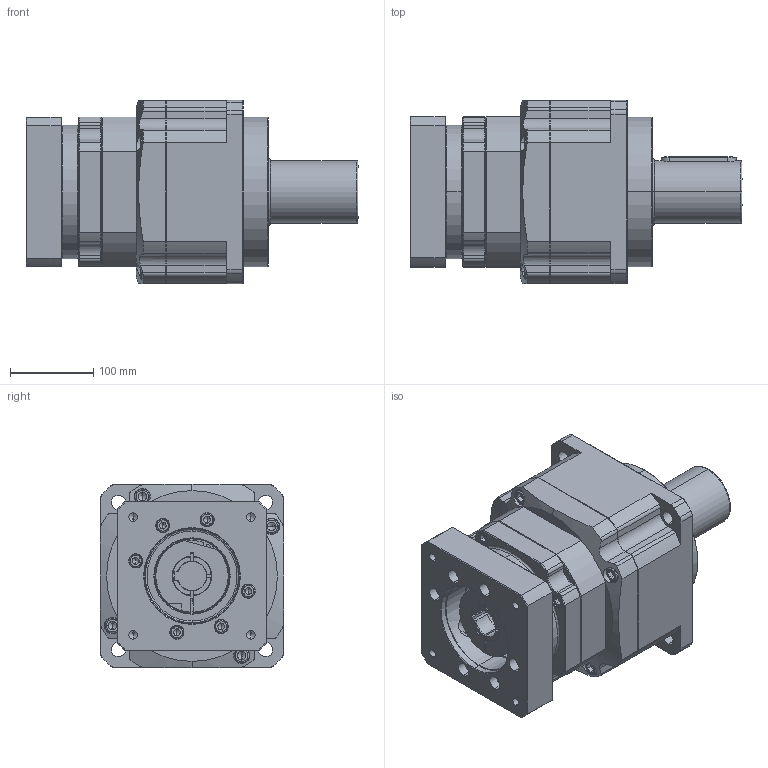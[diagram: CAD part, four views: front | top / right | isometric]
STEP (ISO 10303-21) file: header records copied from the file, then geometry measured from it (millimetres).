
FILE_DESCRIPTION (( 'STEP AP214' ), '1' );
FILE_NAME ('PAB-220-L2-S2-P1 35-114.3-200-M12.STEP', '2023-08-19T07:27:50', ( '微软用户' ), ( '微软中国' ), 'SwSTEP 2.0', 'SolidWorks 2018', '' );
FILE_SCHEMA (( 'AUTOMOTIVE_DESIGN' ));
Length unit declared in the file: millimetre
Products named in the file (1): PAB-220-L2-S2-P1 35-114.3-200-M12
Bounding box: 398.5 x 220 x 220 mm (x, y, z)
Volume: 10146239.5 mm3; surface area: 456397.8 mm2
Topology: 1 solids, 19 shells, 1379 faces, 3481 edges, 2142 vertices
Faces by surface type: plane 546, cylinder 545, cone 214, bspline 74
Entity records: 43858 total; most frequent: CARTESIAN_POINT 10689, DIRECTION 7291, ORIENTED_EDGE 6826, EDGE_CURVE 3413, AXIS2_PLACEMENT_3D 2845, VERTEX_POINT 2142, VECTOR 1601, LINE 1601
